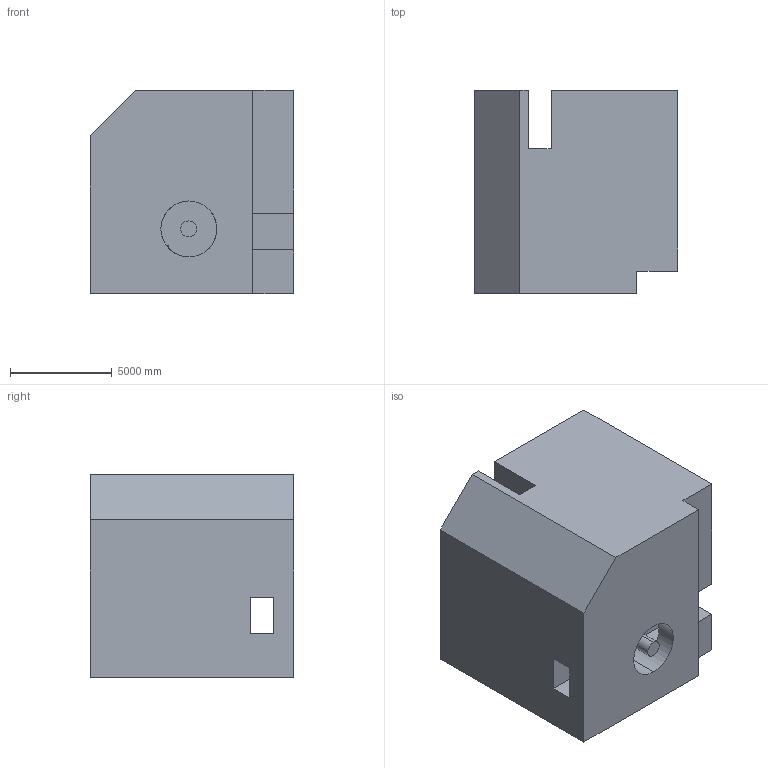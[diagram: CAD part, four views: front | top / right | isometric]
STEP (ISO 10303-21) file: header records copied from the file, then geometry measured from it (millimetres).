
FILE_DESCRIPTION (( 'STEP AP203' ), '1' );
FILE_NAME ('1503.STEP', '2022-08-18T14:53:01', ( 'user' ), ( '' ), 'SwSTEP 2.0', 'SolidWorks 2021', '' );
FILE_SCHEMA (( 'CONFIG_CONTROL_DESIGN' ));
Length unit declared in the file: centimetre
Products named in the file (1): 1503
Bounding box: 10000 x 10000 x 10000 mm (x, y, z)
Volume: 882080394557 mm3; surface area: 704347259.7 mm2
Topology: 2 solids, 2 shells, 38 faces, 105 edges, 70 vertices
Faces by surface type: plane 32, cylinder 6
Entity records: 1294 total; most frequent: CARTESIAN_POINT 214, ORIENTED_EDGE 210, DIRECTION 201, EDGE_CURVE 105, LINE 87, VECTOR 87, VERTEX_POINT 70, AXIS2_PLACEMENT_3D 57
